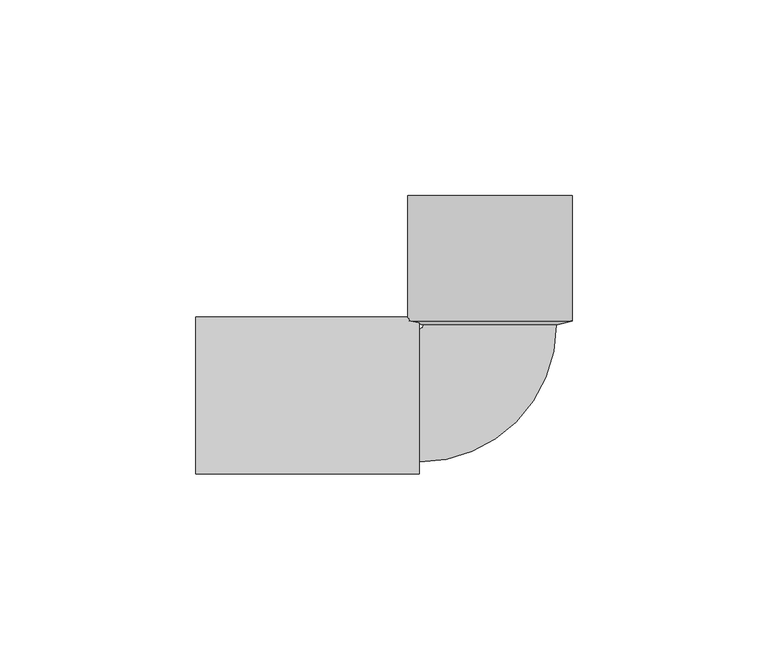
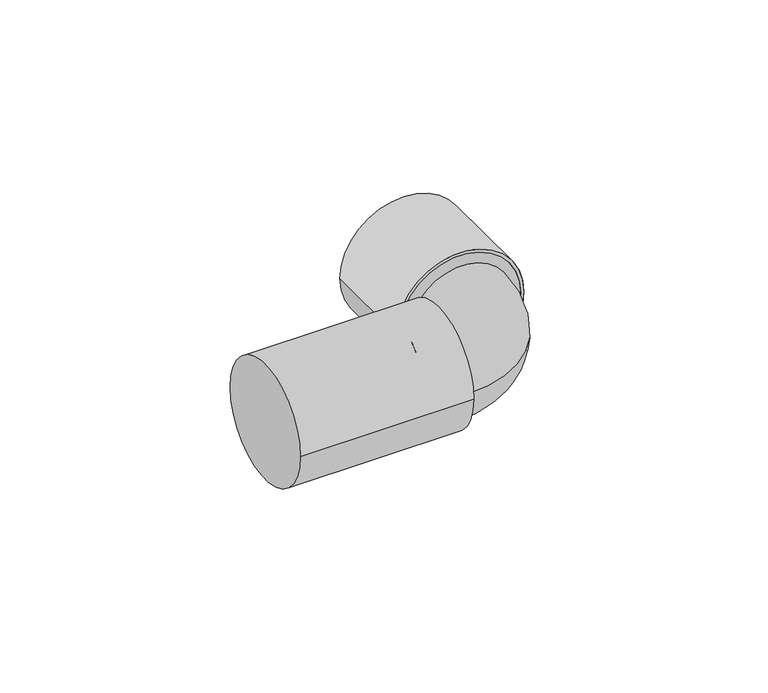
"""IFC4 building model written with IfcOpenShell, lengths in millimetres: pipe fitting geometry, Superdrain HTSW- siphon bend 90 : Superdrain  HTSW- siphon bend 90."""

from ifc_helpers import new_model, si_unit, point, frame, origin, origin_2d, place, context, project, spatial, polyline, circle_curve, ellipse_curve, trimmed, segment, composite_curve, outline, extrude, source, transform, mapped, element, save
from ifc_brep_helpers import plane_surface, revolved_surface, advanced_brep


def pipe_fitting_48ac60f8(model_context):
    return source(origin(), model_context, "Body", "SolidModel", [
        advanced_brep(
        [(17.0, 18.0, 0.0), (-17.0, 18.0, 0.0), (-18.0, -17.0, 0.0), (-18.0, 17.0, 0.0)],
        [
            (0, 1, circle_curve(frame((0.0, 18.0, 0.0), z_axis=(0.0, 1.0, 0.0), x_axis=(-1.0, 0.0, 0.0)), 17.0)),
            (1, 0, circle_curve(frame((0.0, 18.0, 0.0), z_axis=(0.0, 1.0, 0.0), x_axis=(-1.0, 0.0, 0.0)), 17.0)),
            (2, 3, circle_curve(frame((-18.0, 0.0, 0.0), z_axis=(-1.0, 0.0, 0.0), x_axis=(0.0, 1.0, 0.0)), 17.0)),
            (3, 2, circle_curve(frame((-18.0, 0.0, 0.0), z_axis=(-1.0, 0.0, 0.0), x_axis=(0.0, 1.0, 0.0)), 17.0)),
            (3, 1, circle_curve(frame((-18.0, 18.0, 0.0), z_axis=(0.0, 0.0, 1.0), x_axis=(1.0, 0.0, 0.0)), 1.0)),
            (0, 2, circle_curve(frame((-18.0, 18.0, 0.0), z_axis=(0.0, 0.0, -1.0), x_axis=(1.0, 0.0, 0.0)), 35.0)),
        ],
        [
            plane_surface(frame((0.0, 18.0, 0.0), z_axis=(0.0, 1.0, 0.0), x_axis=(0.0, 0.0, -1.0))),
            plane_surface(frame((-18.0, 0.0, 0.0), z_axis=(-1.0, 0.0, 0.0), x_axis=(0.0, 0.0, -1.0))),
            revolved_surface(trimmed(ellipse_curve(frame((0.0, 18.0, 0.0), z_axis=(0.0, -1.0, 0.0), x_axis=(-1.0, 0.0, 0.0)), 17.0, 17.0), [point((-17.0, 18.0, 0.0))], [point((17.0, 18.0, 0.0))], True, "CARTESIAN"), (-18.0, 18.0, 0.0), (0.0, 0.0, 1.0)),
            revolved_surface(trimmed(ellipse_curve(frame((0.0, 18.0, 0.0), z_axis=(0.0, -1.0, 0.0), x_axis=(-1.0, 0.0, 0.0)), 17.0, 17.0), [point((17.0, 18.0, 0.0))], [point((-17.0, 18.0, 0.0))], True, "CARTESIAN"), (-18.0, 18.0, 0.0), (0.0, 0.0, 1.0)),
        ],
        [
            (0, [[1, 2]]),
            (1, [[3, 4]]),
            (2, [[-4, 5, -1, 6]]),
            (3, [[-3, -6, -2, -5]]),
        ],
    ),
        extrude(outline(composite_curve([segment(trimmed(circle_curve(origin_2d(), 21.0), [point((0.0, 21.0))], [point((0.0, -21.0))], False, "CARTESIAN"), True, "CONTINUOUS"), segment(trimmed(circle_curve(origin_2d(), 21.0), [point((0.0, -21.0))], [point((0.0, 21.0))], False, "CARTESIAN"), True, "CONTINUOUS")], self_intersect=False), holes=[composite_curve([segment(trimmed(circle_curve(origin_2d(), 20.0), [point((0.0, 20.0))], [point((0.0, -20.0))], True, "CARTESIAN"), True, "CONTINUOUS"), segment(trimmed(circle_curve(origin_2d(), 20.0), [point((0.0, -20.0))], [point((0.0, 20.0))], True, "CARTESIAN"), True, "CONTINUOUS")], self_intersect=False)]), frame((0.0, 19.0, 0.0), z_axis=(0.0, 1.0, 0.0), x_axis=(0.0, 0.0, 1.0)), (0.0, 0.0, 1.0), 32.0),
        advanced_brep(
        [(21.0, 19.0, 0.0), (-21.0, 19.0, 0.0), (17.0, 18.0, 0.0), (-17.0, 18.0, 0.0)],
        [
            (0, 1, circle_curve(frame((0.0, 19.0, 0.0), z_axis=(0.0, 1.0, 0.0), x_axis=(1.0, 0.0, 0.0)), 21.0)),
            (1, 0, circle_curve(frame((0.0, 19.0, 0.0), z_axis=(0.0, 1.0, 0.0), x_axis=(-1.0, 0.0, 0.0)), 21.0)),
            (2, 3, circle_curve(frame((0.0, 18.0, 0.0), z_axis=(0.0, -1.0, 0.0), x_axis=(-1.0, 0.0, 0.0)), 17.0)),
            (3, 2, circle_curve(frame((0.0, 18.0, 0.0), z_axis=(0.0, -1.0, 0.0), x_axis=(1.0, 0.0, 0.0)), 17.0)),
            (3, 1),
            (0, 2),
        ],
        [
            plane_surface(frame((0.0, 19.0, 0.0), z_axis=(0.0, 1.0, 0.0), x_axis=(0.0, 0.0, -1.0))),
            plane_surface(frame((0.0, 18.0, 0.0), z_axis=(0.0, -1.0, 0.0), x_axis=(0.0, 0.0, -1.0))),
            revolved_surface(polyline([(-17.0, 18.0, 0.0), (-21.0, 19.0, 0.0)]), (0.0, 13.75, 0.0), (0.0, 1.0, 0.0)),
            revolved_surface(polyline([(17.0, 18.0, 0.0), (21.0, 19.0, 0.0)]), (0.0, 13.75, 0.0), (0.0, 1.0, 0.0)),
        ],
        [
            (0, [[1, 2]]),
            (1, [[3, 4]]),
            (2, [[-4, 5, -1, 6]]),
            (3, [[-3, -6, -2, -5]]),
        ],
    ),
        extrude(outline(composite_curve([segment(trimmed(circle_curve(origin_2d(), 20.0), [point((-20.0, 0.0))], [point((20.0, 0.0))], False, "CARTESIAN"), True, "CONTINUOUS"), segment(trimmed(circle_curve(origin_2d(), 20.0), [point((20.0, 0.0))], [point((-20.0, 0.0))], False, "CARTESIAN"), True, "CONTINUOUS")], self_intersect=False)), frame((-75.0, 0.0, 0.0), z_axis=(1.0, 0.0, 0.0), x_axis=(0.0, 1.0, 0.0)), (0.0, 0.0, 1.0), 57.0),
    ])


if __name__ == "__main__":
    model = new_model("IFC4")
    model_context = context("Model", 3, world=origin())
    ifc_project = project(units=[si_unit("LENGTHUNIT", "METRE", prefix="MILLI")], contexts=[model_context])
    site = spatial("IfcSite", under=ifc_project)
    building = spatial("IfcBuilding", under=site)
    placement = place(None, origin())
    pipe_fitting_shape = pipe_fitting_48ac60f8(model_context)
    element("IfcPipeFitting", 1, ObjectType="Superdrain HTSW- siphon bend 90 : Superdrain  HTSW- siphon bend 90", at=placement, inside=building, context=model_context, shape_type="MappedRepresentation", body=[
        mapped(pipe_fitting_shape, transform((0.0, 0.0, 0.0), x_axis=(1.0, 0.0, 0.0), y_axis=(0.0, 1.0, 0.0), z_axis=(0.0, 0.0, 1.0))),
    ])
    save(model, "model.ifc")
